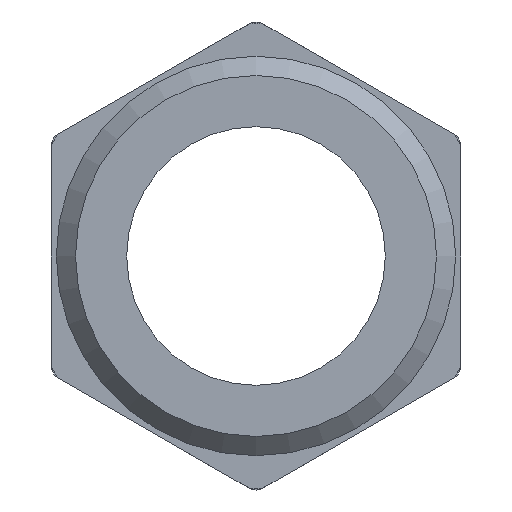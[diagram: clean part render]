
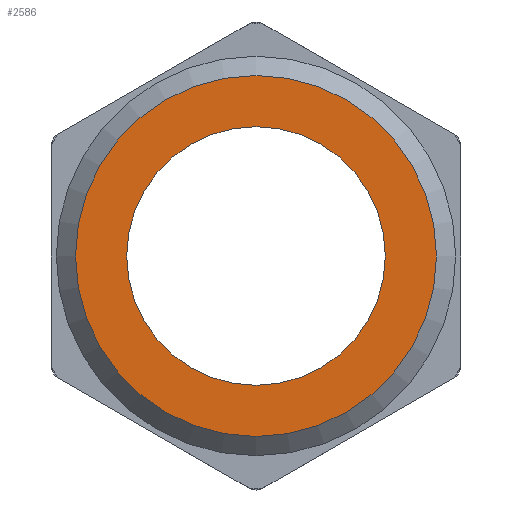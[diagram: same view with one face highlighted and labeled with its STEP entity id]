
A CAD part, left-side view. The second image highlights one B-rep face of the part: STEP entity #2586.
In plain terms, the highlighted planar face has unit normal (-1, 0, 0).
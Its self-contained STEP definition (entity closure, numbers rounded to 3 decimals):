
#2550=CARTESIAN_POINT('',(-52.5,0.,0.));
#2551=DIRECTION('',(1.,0.,0.));
#2552=DIRECTION('',(0.,0.,-1.));
#2553=AXIS2_PLACEMENT_3D('',#2550,#2551,#2552);
#2554=PLANE('',#2553);
#2555=CARTESIAN_POINT('',(-52.5,-0.,-10.75));
#2556=VERTEX_POINT('',#2555);
#2557=CARTESIAN_POINT('',(-52.5,0.,0.));
#2558=DIRECTION('',(1.,0.,0.));
#2559=DIRECTION('',(0.,0.,-1.));
#2560=AXIS2_PLACEMENT_3D('',#2557,#2558,#2559);
#2561=CIRCLE('',#2560,10.75);
#2562=EDGE_CURVE('',#2556,#2556,#2561,.T.);
#2563=ORIENTED_EDGE('',*,*,#2562,.T.);
#2564=EDGE_LOOP('',(#2563));
#2565=FACE_BOUND('',#2564,.T.);
#2566=CARTESIAN_POINT('',(-52.5,-0.,15.));
#2567=VERTEX_POINT('',#2566);
#2568=CARTESIAN_POINT('',(-52.5,0.,-15.));
#2569=VERTEX_POINT('',#2568);
#2570=CARTESIAN_POINT('',(-52.5,0.,0.));
#2571=DIRECTION('',(-1.,0.,0.));
#2572=DIRECTION('',(0.,0.,1.));
#2573=AXIS2_PLACEMENT_3D('',#2570,#2571,#2572);
#2574=CIRCLE('',#2573,15.);
#2575=EDGE_CURVE('',#2567,#2569,#2574,.T.);
#2576=ORIENTED_EDGE('',*,*,#2575,.T.);
#2577=CARTESIAN_POINT('',(-52.5,0.,0.));
#2578=DIRECTION('',(-1.,0.,0.));
#2579=DIRECTION('',(0.,0.,1.));
#2580=AXIS2_PLACEMENT_3D('',#2577,#2578,#2579);
#2581=CIRCLE('',#2580,15.);
#2582=EDGE_CURVE('',#2569,#2567,#2581,.T.);
#2583=ORIENTED_EDGE('',*,*,#2582,.T.);
#2584=EDGE_LOOP('',(#2576,#2583));
#2585=FACE_BOUND('',#2584,.T.);
#2586=ADVANCED_FACE('',(#2565,#2585),#2554,.F.);
